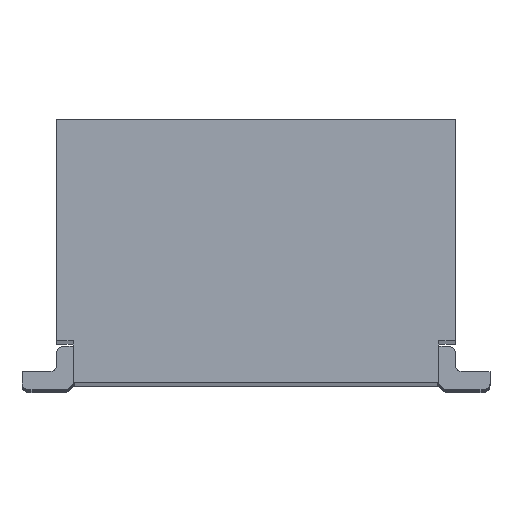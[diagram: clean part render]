
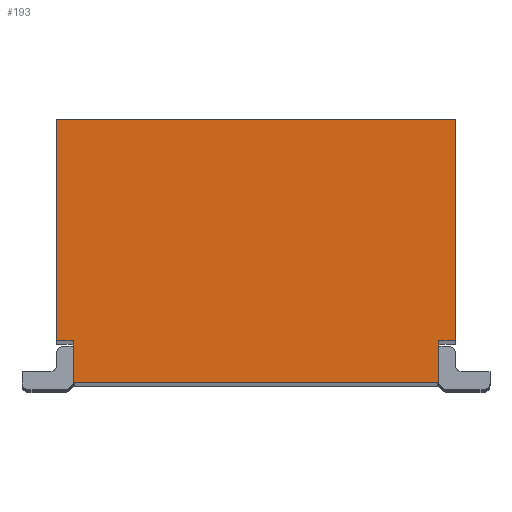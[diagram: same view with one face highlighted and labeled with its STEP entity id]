
A CAD part, top view. The second image highlights one B-rep face of the part: STEP entity #193.
In plain terms, the highlighted planar face has unit normal (0, 0, 1).
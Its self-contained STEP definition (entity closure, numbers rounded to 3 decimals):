
#193 = ADVANCED_FACE ( 'NONE', ( #37883 ), #6725, .T. ) ;
#942 = ORIENTED_EDGE ( 'NONE', *, *, #21360, .T. ) ;
#1180 = ORIENTED_EDGE ( 'NONE', *, *, #20500, .F. ) ;
#1389 = VECTOR ( 'NONE', #39339, 1000. ) ;
#1660 = LINE ( 'NONE', #39909, #4649 ) ;
#2769 = ORIENTED_EDGE ( 'NONE', *, *, #23631, .F. ) ;
#3377 = ORIENTED_EDGE ( 'NONE', *, *, #36666, .T. ) ;
#3726 = LINE ( 'NONE', #23469, #8503 ) ;
#4649 = VECTOR ( 'NONE', #23089, 1000. ) ;
#4678 = LINE ( 'NONE', #17049, #1389 ) ;
#5910 = DIRECTION ( 'NONE',  ( 0., 1., 0. ) ) ;
#6725 = PLANE ( 'NONE',  #28327 ) ;
#6772 = VERTEX_POINT ( 'NONE', #38027 ) ;
#7508 = DIRECTION ( 'NONE',  ( -1., 0., 0. ) ) ;
#7512 = CARTESIAN_POINT ( 'NONE',  ( -1.44, -1.7, 15.185 ) ) ;
#7825 = DIRECTION ( 'NONE',  ( 0., 1., 0. ) ) ;
#7969 = VERTEX_POINT ( 'NONE', #21211 ) ;
#8503 = VECTOR ( 'NONE', #7508, 1000. ) ;
#9747 = VERTEX_POINT ( 'NONE', #38991 ) ;
#10965 = DIRECTION ( 'NONE',  ( -1., 0., 0. ) ) ;
#11601 = DIRECTION ( 'NONE',  ( 1., 0., 0. ) ) ;
#12403 = LINE ( 'NONE', #21852, #14827 ) ;
#12897 = VECTOR ( 'NONE', #13653, 1000. ) ;
#13007 = DIRECTION ( 'NONE',  ( 0., 0., 1. ) ) ;
#13653 = DIRECTION ( 'NONE',  ( 0., -1., 0. ) ) ;
#14345 = CARTESIAN_POINT ( 'NONE',  ( -0.127, -2., 15.185 ) ) ;
#14519 = CARTESIAN_POINT ( 'NONE',  ( -1.44, -1.7, 15.185 ) ) ;
#14827 = VECTOR ( 'NONE', #5910, 1000. ) ;
#17049 = CARTESIAN_POINT ( 'NONE',  ( -1.44, -21.25, 15.185 ) ) ;
#17198 = CARTESIAN_POINT ( 'NONE',  ( 1.44, -1.7, 15.185 ) ) ;
#18394 = VERTEX_POINT ( 'NONE', #39471 ) ;
#18650 = ORIENTED_EDGE ( 'NONE', *, *, #27512, .F. ) ;
#19025 = VERTEX_POINT ( 'NONE', #31196 ) ;
#20500 = EDGE_CURVE ( 'NONE', #7969, #39176, #3726, .T. ) ;
#21211 = CARTESIAN_POINT ( 'NONE',  ( -1.32, -1.7, 15.185 ) ) ;
#21360 = EDGE_CURVE ( 'NONE', #19025, #18394, #39350, .T. ) ;
#21852 = CARTESIAN_POINT ( 'NONE',  ( 1.44, -21.25, 15.185 ) ) ;
#21997 = VECTOR ( 'NONE', #7825, 1000. ) ;
#22550 = VECTOR ( 'NONE', #10965, 1000. ) ;
#22658 = EDGE_CURVE ( 'NONE', #9747, #19025, #33890, .T. ) ;
#22869 = ORIENTED_EDGE ( 'NONE', *, *, #35378, .T. ) ;
#23089 = DIRECTION ( 'NONE',  ( 1., 0., 0. ) ) ;
#23469 = CARTESIAN_POINT ( 'NONE',  ( -1.44, -1.7, 15.185 ) ) ;
#23535 = LINE ( 'NONE', #39097, #12897 ) ;
#23631 = EDGE_CURVE ( 'NONE', #39176, #6772, #4678, .T. ) ;
#24412 = EDGE_LOOP ( 'NONE', ( #36033, #22869, #18650, #2769, #1180, #3377, #29548, #942 ) ) ;
#24947 = EDGE_CURVE ( 'NONE', #35508, #18394, #27141, .T. ) ;
#25823 = DIRECTION ( 'NONE',  ( 0., -1., 0. ) ) ;
#27141 = LINE ( 'NONE', #14519, #22550 ) ;
#27512 = EDGE_CURVE ( 'NONE', #6772, #30020, #1660, .T. ) ;
#28327 = AXIS2_PLACEMENT_3D ( 'NONE', #37461, #13007, #25823 ) ;
#29548 = ORIENTED_EDGE ( 'NONE', *, *, #22658, .T. ) ;
#30020 = VERTEX_POINT ( 'NONE', #39593 ) ;
#31196 = CARTESIAN_POINT ( 'NONE',  ( 1.32, -2., 15.185 ) ) ;
#33545 = VECTOR ( 'NONE', #11601, 1000. ) ;
#33890 = LINE ( 'NONE', #14345, #33545 ) ;
#35378 = EDGE_CURVE ( 'NONE', #35508, #30020, #12403, .T. ) ;
#35508 = VERTEX_POINT ( 'NONE', #17198 ) ;
#36033 = ORIENTED_EDGE ( 'NONE', *, *, #24947, .F. ) ;
#36621 = CARTESIAN_POINT ( 'NONE',  ( 1.32, -1.7, 15.185 ) ) ;
#36666 = EDGE_CURVE ( 'NONE', #7969, #9747, #23535, .T. ) ;
#37461 = CARTESIAN_POINT ( 'NONE',  ( 0., -1.1, 15.185 ) ) ;
#37883 = FACE_OUTER_BOUND ( 'NONE', #24412, .T. ) ;
#38027 = CARTESIAN_POINT ( 'NONE',  ( -1.44, -0.1, 15.185 ) ) ;
#38991 = CARTESIAN_POINT ( 'NONE',  ( -1.32, -2., 15.185 ) ) ;
#39097 = CARTESIAN_POINT ( 'NONE',  ( -1.32, -1.705, 15.185 ) ) ;
#39176 = VERTEX_POINT ( 'NONE', #7512 ) ;
#39339 = DIRECTION ( 'NONE',  ( 0., 1., 0. ) ) ;
#39350 = LINE ( 'NONE', #36621, #21997 ) ;
#39471 = CARTESIAN_POINT ( 'NONE',  ( 1.32, -1.7, 15.185 ) ) ;
#39593 = CARTESIAN_POINT ( 'NONE',  ( 1.44, -0.1, 15.185 ) ) ;
#39909 = CARTESIAN_POINT ( 'NONE',  ( -1.47, -0.1, 15.185 ) ) ;
